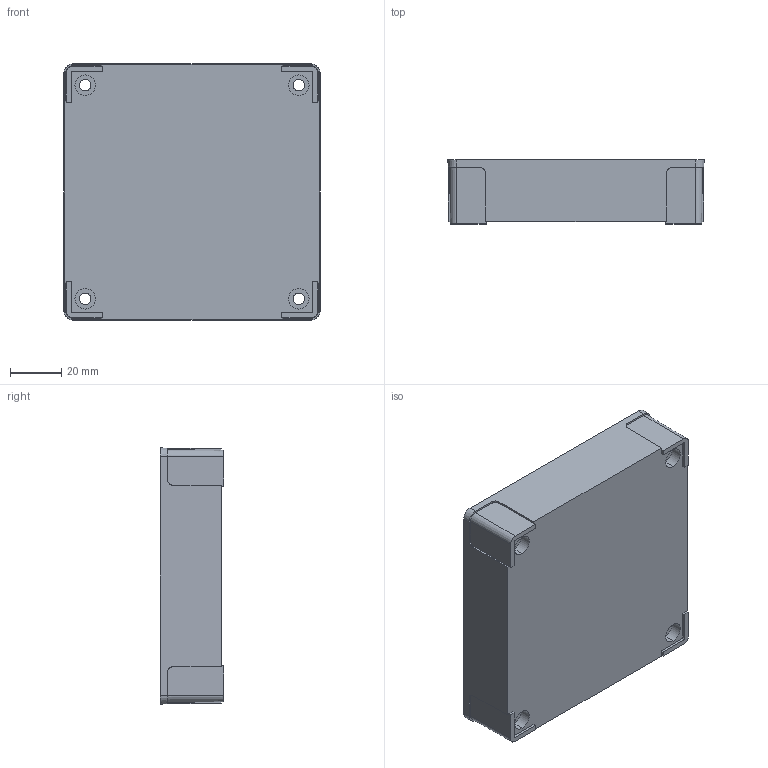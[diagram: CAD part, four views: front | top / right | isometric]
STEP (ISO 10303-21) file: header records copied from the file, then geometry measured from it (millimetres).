
FILE_DESCRIPTION (( 'STEP AP203' ), '1' );
FILE_NAME ('FIBOX_MNX95LB.STEP', '2005-06-30T09:31:17', ( ' ' ), ( ' ' ), 'SwSTEP 2.0', 'SolidWorks 2005143', '' );
FILE_SCHEMA (( 'CONFIG_CONTROL_DESIGN' ));
Length unit declared in the file: millimetre
Products named in the file (1): FIBOX_MNX95LB
Bounding box: 100.1 x 25 x 100.1 mm (x, y, z)
Volume: 72249.4 mm3; surface area: 41305.6 mm2
Topology: 1 solids, 1 shells, 314 faces, 777 edges, 518 vertices
Faces by surface type: plane 170, cylinder 124, cone 20
Entity records: 9490 total; most frequent: CARTESIAN_POINT 1706, DIRECTION 1655, ORIENTED_EDGE 1554, EDGE_CURVE 777, AXIS2_PLACEMENT_3D 595, VERTEX_POINT 518, VECTOR 465, LINE 465
